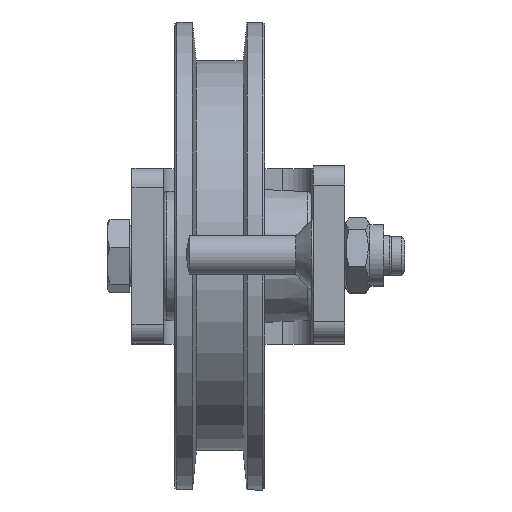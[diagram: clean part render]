
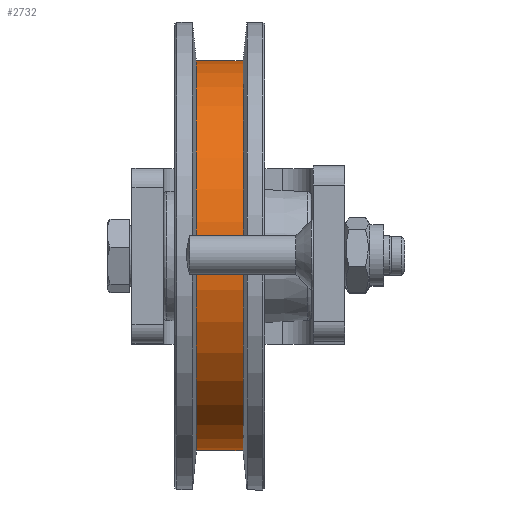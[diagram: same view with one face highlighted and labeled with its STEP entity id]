
A CAD part, top view. The second image highlights one B-rep face of the part: STEP entity #2732.
In plain terms, the highlighted cylindrical face has radius 50 mm (diameter 100 mm), a full revolution.
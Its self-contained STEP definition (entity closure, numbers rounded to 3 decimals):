
#159=CYLINDRICAL_SURFACE('',#3027,50.);
#220=CIRCLE('',#3026,50.);
#221=CIRCLE('',#3028,50.);
#476=FACE_OUTER_BOUND('',#652,.T.);
#652=EDGE_LOOP('',(#2208,#2209,#2210,#2211));
#859=LINE('',#4642,#1066);
#1066=VECTOR('',#3474,50.);
#1346=VERTEX_POINT('',#4636);
#1347=VERTEX_POINT('',#4640);
#1649=EDGE_CURVE('',#1346,#1346,#220,.T.);
#1651=EDGE_CURVE('',#1347,#1347,#221,.T.);
#1652=EDGE_CURVE('',#1347,#1346,#859,.T.);
#2208=ORIENTED_EDGE('',*,*,#1651,.F.);
#2209=ORIENTED_EDGE('',*,*,#1652,.T.);
#2210=ORIENTED_EDGE('',*,*,#1649,.T.);
#2211=ORIENTED_EDGE('',*,*,#1652,.F.);
#2732=ADVANCED_FACE('',(#476),#159,.T.);
#3026=AXIS2_PLACEMENT_3D('',#4637,#3467,#3468);
#3027=AXIS2_PLACEMENT_3D('',#4639,#3470,#3471);
#3028=AXIS2_PLACEMENT_3D('',#4641,#3472,#3473);
#3467=DIRECTION('center_axis',(-1.,0.,0.));
#3468=DIRECTION('ref_axis',(0.,-1.,0.));
#3470=DIRECTION('center_axis',(-1.,0.,0.));
#3471=DIRECTION('ref_axis',(0.,-1.,0.));
#3472=DIRECTION('center_axis',(-1.,0.,0.));
#3473=DIRECTION('ref_axis',(0.,-1.,0.));
#3474=DIRECTION('',(1.,0.,0.));
#4636=CARTESIAN_POINT('',(6.,50.,0.));
#4637=CARTESIAN_POINT('Origin',(6.,0.,0.));
#4639=CARTESIAN_POINT('Origin',(0.,0.,0.));
#4640=CARTESIAN_POINT('',(-6.,50.,0.));
#4641=CARTESIAN_POINT('Origin',(-6.,0.,0.));
#4642=CARTESIAN_POINT('',(0.,50.,0.));
